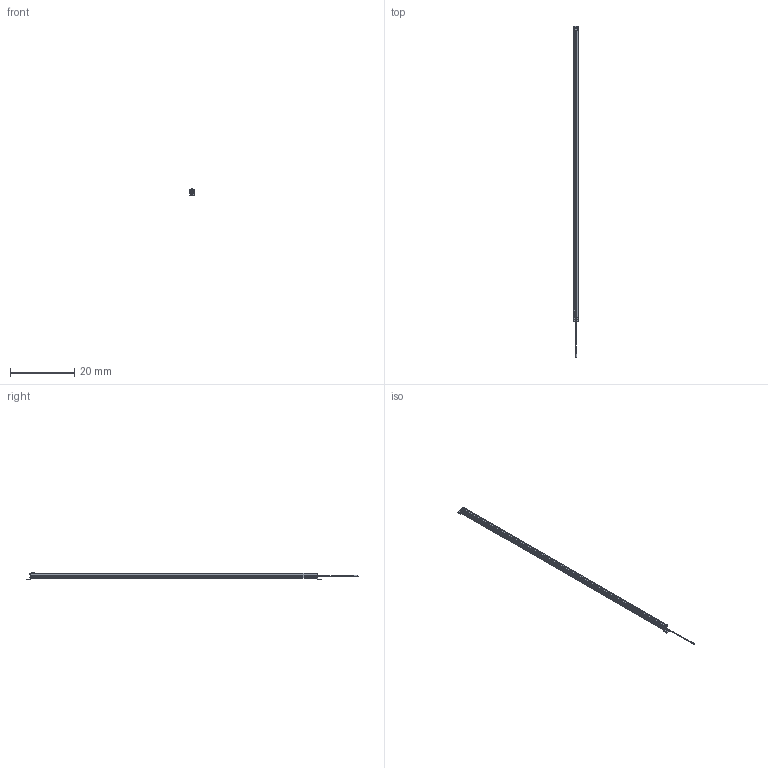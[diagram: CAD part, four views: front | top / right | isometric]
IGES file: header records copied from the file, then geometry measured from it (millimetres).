
Start section:  Autodesk DirectConnect version 7.0.27.0 ---- IGES version 5.3
Global section: file name: C:\ACADFILES\SS_PYLONS\CUSTOMER_FILES\SS-88-PYLON_3D_L.iges; native system: Autodesk DirectConnect 7.0.27.0; preprocessor: 7.0.27.0; author: ENGINEERMAIN; organization: Unknown; date: 20150810.130518; units: millimetre
Bounding box: 1.46 x 103.52 x 2.11 mm (x, y, z)
Surface area: 1309.7 mm2 (no closed solid volume)
Topology: 0 solids, 0 shells, 475 faces, 2604 edges, 2623 vertices
Faces by surface type: bspline 475
